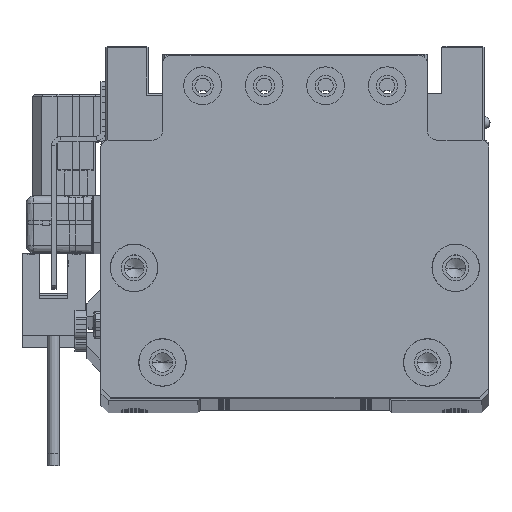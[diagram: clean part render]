
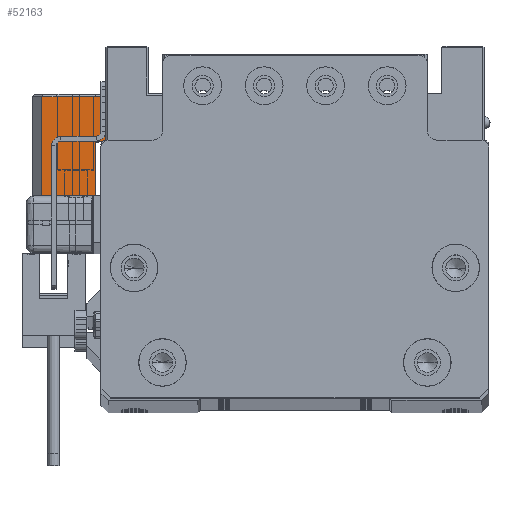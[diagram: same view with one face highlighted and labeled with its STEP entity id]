
A CAD part, top view. The second image highlights one B-rep face of the part: STEP entity #52163.
In plain terms, the highlighted planar face has unit normal (0, 0, 1) as drawn and (1, 0, 0) by its records, which use the part's own axes.
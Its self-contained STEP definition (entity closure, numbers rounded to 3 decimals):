
#2251 = EDGE_CURVE ( 'NONE', #64841, #46817, #48153, .T. ) ;
#3016 = VERTEX_POINT ( 'NONE', #60535 ) ;
#3148 = VERTEX_POINT ( 'NONE', #42390 ) ;
#3314 = CARTESIAN_POINT ( 'NONE',  ( 17., 0.75, -13.3 ) ) ;
#3836 = EDGE_CURVE ( 'NONE', #46817, #3148, #39845, .T. ) ;
#4038 = CARTESIAN_POINT ( 'NONE',  ( 17., -10.75, -15.5 ) ) ;
#8804 = DIRECTION ( 'NONE',  ( 0., -1., 0. ) ) ;
#8990 = DIRECTION ( 'NONE',  ( 0., 1., 0. ) ) ;
#9211 = EDGE_CURVE ( 'NONE', #3148, #3016, #29086, .T. ) ;
#11495 = FACE_OUTER_BOUND ( 'NONE', #22628, .T. ) ;
#12507 = EDGE_CURVE ( 'NONE', #40110, #22165, #33166, .T. ) ;
#14166 = CARTESIAN_POINT ( 'NONE',  ( 17., -10.75, -13.3 ) ) ;
#14612 = VECTOR ( 'NONE', #8990, 1000. ) ;
#17053 = DIRECTION ( 'NONE',  ( 0., 0., -1. ) ) ;
#20169 = EDGE_CURVE ( 'NONE', #64841, #40110, #59026, .T. ) ;
#22165 = VERTEX_POINT ( 'NONE', #40420 ) ;
#22464 = CARTESIAN_POINT ( 'NONE',  ( 17., 0.75, -15.5 ) ) ;
#22628 = EDGE_LOOP ( 'NONE', ( #46826, #41927, #56230, #43673, #46802, #50304 ) ) ;
#23619 = LINE ( 'NONE', #43707, #33799 ) ;
#24350 = DIRECTION ( 'NONE',  ( 0., -1., 0. ) ) ;
#25677 = CARTESIAN_POINT ( 'NONE',  ( 17., 10.25, -15.5 ) ) ;
#26949 = PLANE ( 'NONE',  #62130 ) ;
#27892 = CARTESIAN_POINT ( 'NONE',  ( 17., 10.25, -15.5 ) ) ;
#29086 = LINE ( 'NONE', #4038, #32921 ) ;
#32674 = DIRECTION ( 'NONE',  ( 0., 0., 1. ) ) ;
#32921 = VECTOR ( 'NONE', #49183, 1000. ) ;
#33156 = VECTOR ( 'NONE', #24350, 1000. ) ;
#33166 = LINE ( 'NONE', #27892, #42435 ) ;
#33799 = VECTOR ( 'NONE', #8804, 1000. ) ;
#34923 = VECTOR ( 'NONE', #32674, 1000. ) ;
#39845 = LINE ( 'NONE', #14166, #33156 ) ;
#40110 = VERTEX_POINT ( 'NONE', #25677 ) ;
#40420 = CARTESIAN_POINT ( 'NONE',  ( 17., 10.25, -2. ) ) ;
#41927 = ORIENTED_EDGE ( 'NONE', *, *, #12507, .T. ) ;
#42390 = CARTESIAN_POINT ( 'NONE',  ( 17., -10.75, -13.3 ) ) ;
#42435 = VECTOR ( 'NONE', #47991, 1000. ) ;
#43670 = EDGE_CURVE ( 'NONE', #22165, #3016, #23619, .T. ) ;
#43673 = ORIENTED_EDGE ( 'NONE', *, *, #9211, .F. ) ;
#43707 = CARTESIAN_POINT ( 'NONE',  ( 17., -10.75, -2. ) ) ;
#46802 = ORIENTED_EDGE ( 'NONE', *, *, #3836, .F. ) ;
#46817 = VERTEX_POINT ( 'NONE', #3314 ) ;
#46826 = ORIENTED_EDGE ( 'NONE', *, *, #20169, .T. ) ;
#47991 = DIRECTION ( 'NONE',  ( 0., 0., 1. ) ) ;
#48153 = LINE ( 'NONE', #22464, #34923 ) ;
#49183 = DIRECTION ( 'NONE',  ( 0., 0., 1. ) ) ;
#50304 = ORIENTED_EDGE ( 'NONE', *, *, #2251, .F. ) ;
#52163 = ADVANCED_FACE ( 'NONE', ( #11495 ), #26949, .T. ) ;
#52311 = CARTESIAN_POINT ( 'NONE',  ( 17., -10.75, -15.5 ) ) ;
#55075 = CARTESIAN_POINT ( 'NONE',  ( 17., -10.75, -15.5 ) ) ;
#56230 = ORIENTED_EDGE ( 'NONE', *, *, #43670, .T. ) ;
#56285 = DIRECTION ( 'NONE',  ( 1., 0., 0. ) ) ;
#59026 = LINE ( 'NONE', #55075, #14612 ) ;
#60535 = CARTESIAN_POINT ( 'NONE',  ( 17., -10.75, -2. ) ) ;
#61296 = CARTESIAN_POINT ( 'NONE',  ( 17., 0.75, -15.5 ) ) ;
#62130 = AXIS2_PLACEMENT_3D ( 'NONE', #52311, #56285, #17053 ) ;
#64841 = VERTEX_POINT ( 'NONE', #61296 ) ;
